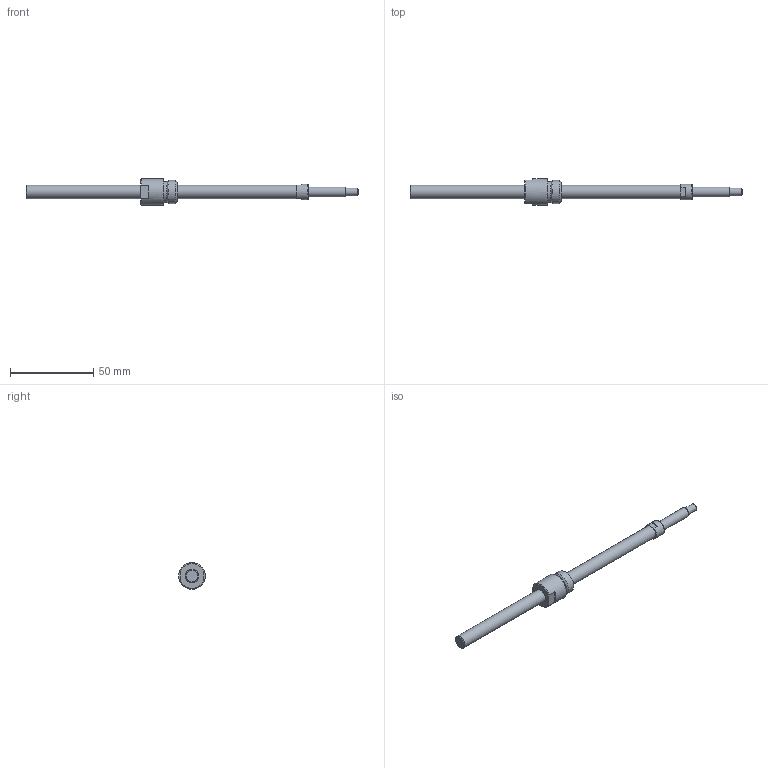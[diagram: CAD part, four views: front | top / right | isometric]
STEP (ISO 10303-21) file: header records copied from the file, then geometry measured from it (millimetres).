
FILE_DESCRIPTION(/* description */ ('STEP AP214'),/* implementation_level */ '2;1');
FILE_NAME(/* name */ 'NSG0801-160R200C5A0X(69)',/* time_stamp */ '2026-08-20T15:47:11+02:00',/* author */ ('License CC BY-ND 4.0'),/* organization */ ('CADENAS'),/* preprocessor_version */ 'ST-DEVELOPER v20',/* originating_system */ 'PARTsolutions',/* authorisation */ ' ');
FILE_SCHEMA (('AUTOMOTIVE_DESIGN {1 0 10303 214 3 1 1}'));
Length unit declared in the file: millimetre
Products named in the file (3): NSG0801-160R200C5A0X(69); NSG0801-160R200C3A_shaft; NSG0801_nut
Assembly tree (2 placements, depth 2):
  NSG0801-160R200C5A0X(69)
    NSG0801-160R200C3A_shaft
    NSG0801_nut
Bounding box: 200 x 16 x 16 mm (x, y, z)
Volume: 12210.1 mm3; surface area: 6850.5 mm2
Topology: 2 solids, 2 shells, 35 faces, 72 edges, 44 vertices
Faces by surface type: plane 17, cone 9, cylinder 8, torus 1
Full cylindrical faces by diameter (mm): 4.5 x1, 6 x1, 8 x2, 9.5 x1, 12.4 x1, 14 x1, 16 x1
Entity records: 907 total; most frequent: DIRECTION 158, CARTESIAN_POINT 146, ORIENTED_EDGE 108, AXIS2_PLACEMENT_3D 70, EDGE_LOOP 56, FACE_BOUND 56, EDGE_CURVE 54, VERTEX_POINT 42
